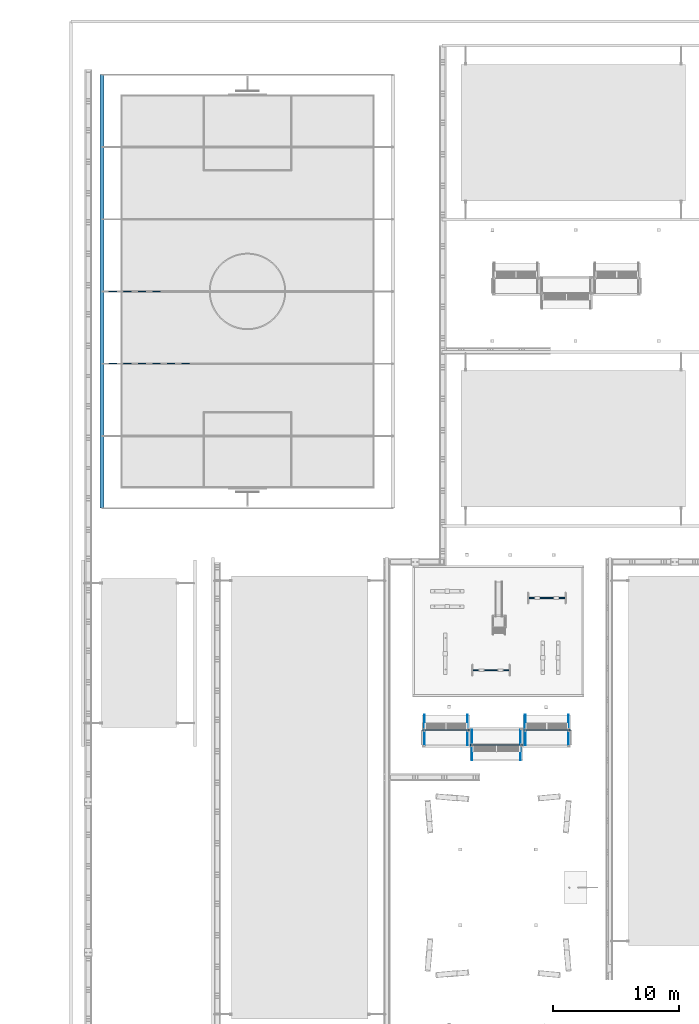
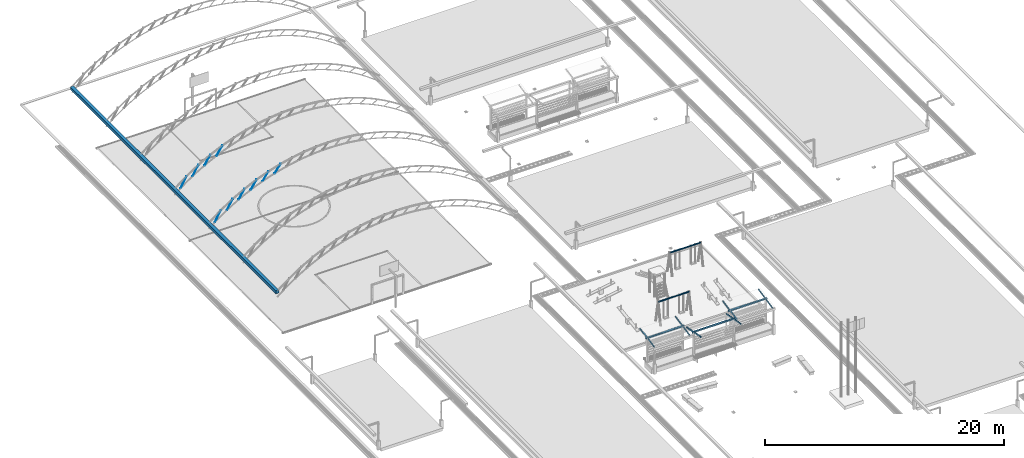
# One storey, part 12 of 90: 22 beams.
"""IFC2X3 building model written with IfcOpenShell, lengths in metres."""

from ifc_helpers import new_model, si_unit, origin, origin_with_axes, place, context, subcontext, project, spatial, faceted_brep, element, save


model = new_model("IFC2X3")

# Units and contexts
model_context = context("Model", 3, precision=1e-05, world=origin_with_axes())
body_context = subcontext(model_context, "Body", "Model", "MODEL_VIEW")
ifc_project = project(units=[si_unit("LENGTHUNIT", "METRE"), si_unit("AREAUNIT", "SQUARE_METRE"), si_unit("VOLUMEUNIT", "CUBIC_METRE"), si_unit("PLANEANGLEUNIT", "RADIAN")], contexts=[model_context])

# Site, building, storey
site_placement = place(None, origin_with_axes())
site = spatial("IfcSite", under=ifc_project, at=site_placement, Name="Predio Los Mangos - Morales, San Martín", CompositionType="ELEMENT")
building_placement = place(site_placement, origin())
building = spatial("IfcBuilding", under=site, at=building_placement, Name="Hogar de Refugio Temporal", CompositionType="ELEMENT")
storey_placement = place(building_placement, origin())
storey = spatial("IfcBuildingStorey", under=building, at=storey_placement, Name="NIVEL 1 (NPT +0.00)", CompositionType="ELEMENT", Elevation=0.0)

# Beams
beam_1_placement = place(storey_placement, origin())
element("IfcBeam", 1, at=beam_1_placement, inside=storey, Name="diag", ObjectType="Viga", context=body_context, shape_type="Brep", body=[
    faceted_brep([(4.0666, 104.0883, 5.8202), (4.6441, 104.0883, 6.8469), (4.655, 104.0917, 6.8408), (4.0775, 104.0917, 5.8141), (4.0586, 104.0792, 5.8247), (4.6361, 104.0792, 6.8514), (4.0557, 104.0667, 5.8263), (4.6332, 104.0667, 6.8531), (4.0586, 104.0542, 5.8247), (4.6361, 104.0542, 6.8514), (4.0666, 104.045, 5.8202), (4.6441, 104.045, 6.8469), (4.0775, 104.0417, 5.8141), (4.655, 104.0417, 6.8408), (4.0884, 104.045, 5.808), (4.6659, 104.045, 6.8347), (4.0964, 104.0542, 5.8035), (4.6739, 104.0542, 6.8302), (4.0993, 104.0667, 5.8018), (4.6768, 104.0667, 6.8286), (4.0964, 104.0792, 5.8035), (4.6739, 104.0792, 6.8302), (4.0884, 104.0883, 5.808), (4.6659, 104.0883, 6.8347), (4.0756, 104.0704, 5.8151), (4.0775, 104.071, 5.8141), (4.655, 104.071, 6.8408), (4.6531, 104.0704, 6.8419), (4.0743, 104.0688, 5.8159), (4.6518, 104.0688, 6.8426), (4.0738, 104.0667, 5.8162), (4.6513, 104.0667, 6.8429), (4.0743, 104.0645, 5.8159), (4.6518, 104.0645, 6.8426), (4.0756, 104.0629, 5.8151), (4.6531, 104.0629, 6.8419), (4.0775, 104.0624, 5.8141), (4.655, 104.0624, 6.8408), (4.0794, 104.0629, 5.813), (4.6569, 104.0629, 6.8398), (4.0807, 104.0645, 5.8123), (4.6582, 104.0645, 6.839), (4.0812, 104.0667, 5.812), (4.6587, 104.0667, 6.8387), (4.0807, 104.0688, 5.8123), (4.6582, 104.0688, 6.839), (4.0794, 104.0704, 5.813), (4.6569, 104.0704, 6.8398)], [[[0, 1, 2, 3]], [[4, 5, 1, 0]], [[6, 7, 5, 4]], [[8, 9, 7, 6]], [[10, 11, 9, 8]], [[12, 13, 11, 10]], [[14, 15, 13, 12]], [[16, 17, 15, 14]], [[18, 19, 17, 16]], [[20, 21, 19, 18]], [[22, 23, 21, 20]], [[3, 2, 23, 22]], [[24, 25, 26, 27]], [[28, 24, 27, 29]], [[30, 28, 29, 31]], [[32, 30, 31, 33]], [[34, 32, 33, 35]], [[36, 34, 35, 37]], [[38, 36, 37, 39]], [[40, 38, 39, 41]], [[42, 40, 41, 43]], [[44, 42, 43, 45]], [[46, 44, 45, 47]], [[25, 46, 47, 26]], [[9, 11, 35, 33]], [[19, 21, 45, 43]], [[12, 10, 34, 36]], [[22, 20, 44, 46]], [[5, 7, 31, 29]], [[15, 17, 41, 39]], [[2, 1, 27, 26]], [[8, 6, 30, 32]], [[18, 16, 40, 42]], [[11, 13, 37, 35]], [[21, 23, 47, 45]], [[4, 0, 24, 28]], [[14, 12, 36, 38]], [[3, 22, 46, 25]], [[7, 9, 33, 31]], [[17, 19, 43, 41]], [[23, 2, 26, 47]], [[10, 8, 32, 34]], [[20, 18, 42, 44]], [[1, 5, 29, 27]], [[13, 15, 39, 37]], [[6, 4, 28, 30]], [[16, 14, 38, 40]], [[0, 3, 25, 24]]]),
])
beam_2_placement = place(storey_placement, origin())
element("IfcBeam", 2, at=beam_2_placement, inside=storey, Name="diag", ObjectType="Viga", context=body_context, shape_type="Brep", body=[
    faceted_brep([(5.2218, 104.0883, 6.6398), (5.7993, 104.0883, 7.6007), (5.81, 104.0917, 7.5943), (5.2325, 104.0917, 6.6333), (5.2139, 104.0792, 6.6445), (5.7914, 104.0792, 7.6055), (5.2111, 104.0667, 6.6462), (5.7886, 104.0667, 7.6072), (5.2139, 104.0542, 6.6445), (5.7914, 104.0542, 7.6055), (5.2218, 104.045, 6.6398), (5.7993, 104.045, 7.6007), (5.2325, 104.0417, 6.6333), (5.81, 104.0417, 7.5943), (5.2432, 104.045, 6.6269), (5.8207, 104.045, 7.5879), (5.2511, 104.0542, 6.6222), (5.8286, 104.0542, 7.5832), (5.2539, 104.0667, 6.6205), (5.8314, 104.0667, 7.5814), (5.2511, 104.0792, 6.6222), (5.8286, 104.0792, 7.5832), (5.2432, 104.0883, 6.6269), (5.8207, 104.0883, 7.5879), (5.2307, 104.0704, 6.6345), (5.2325, 104.071, 6.6333), (5.81, 104.071, 7.5943), (5.8082, 104.0704, 7.5954), (5.2293, 104.0688, 6.6353), (5.8068, 104.0688, 7.5962), (5.2288, 104.0667, 6.6356), (5.8063, 104.0667, 7.5965), (5.2293, 104.0645, 6.6353), (5.8068, 104.0645, 7.5962), (5.2307, 104.0629, 6.6345), (5.8082, 104.0629, 7.5954), (5.2325, 104.0624, 6.6333), (5.81, 104.0624, 7.5943), (5.2343, 104.0629, 6.6322), (5.8118, 104.0629, 7.5932), (5.2357, 104.0645, 6.6314), (5.8132, 104.0645, 7.5924), (5.2362, 104.0667, 6.6311), (5.8137, 104.0667, 7.5921), (5.2357, 104.0688, 6.6314), (5.8132, 104.0688, 7.5924), (5.2343, 104.0704, 6.6322), (5.8118, 104.0704, 7.5932)], [[[0, 1, 2, 3]], [[4, 5, 1, 0]], [[6, 7, 5, 4]], [[8, 9, 7, 6]], [[10, 11, 9, 8]], [[12, 13, 11, 10]], [[14, 15, 13, 12]], [[16, 17, 15, 14]], [[18, 19, 17, 16]], [[20, 21, 19, 18]], [[22, 23, 21, 20]], [[3, 2, 23, 22]], [[24, 25, 26, 27]], [[28, 24, 27, 29]], [[30, 28, 29, 31]], [[32, 30, 31, 33]], [[34, 32, 33, 35]], [[36, 34, 35, 37]], [[38, 36, 37, 39]], [[40, 38, 39, 41]], [[42, 40, 41, 43]], [[44, 42, 43, 45]], [[46, 44, 45, 47]], [[25, 46, 47, 26]], [[9, 11, 35, 33]], [[19, 21, 45, 43]], [[12, 10, 34, 36]], [[22, 20, 44, 46]], [[5, 7, 31, 29]], [[15, 17, 41, 39]], [[2, 1, 27, 26]], [[8, 6, 30, 32]], [[18, 16, 40, 42]], [[11, 13, 37, 35]], [[21, 23, 47, 45]], [[4, 0, 24, 28]], [[14, 12, 36, 38]], [[3, 22, 46, 25]], [[7, 9, 33, 31]], [[17, 19, 43, 41]], [[23, 2, 26, 47]], [[10, 8, 32, 34]], [[20, 18, 42, 44]], [[1, 5, 29, 27]], [[13, 15, 39, 37]], [[6, 4, 28, 30]], [[16, 14, 38, 40]], [[0, 3, 25, 24]]]),
])
beam_3_placement = place(storey_placement, origin())
element("IfcBeam", 3, at=beam_3_placement, inside=storey, Name="diag", ObjectType="Viga", context=body_context, shape_type="Brep", body=[
    faceted_brep([(6.377, 104.0883, 7.3326), (6.9545, 104.0883, 8.2366), (6.965, 104.0917, 8.2298), (6.3875, 104.0917, 7.3259), (6.3693, 104.0792, 7.3375), (6.9468, 104.0792, 8.2415), (6.3664, 104.0667, 7.3393), (6.9439, 104.0667, 8.2433), (6.3693, 104.0542, 7.3375), (6.9468, 104.0542, 8.2415), (6.377, 104.045, 7.3326), (6.9545, 104.045, 8.2366), (6.3875, 104.0417, 7.3259), (6.965, 104.0417, 8.2298), (6.398, 104.045, 7.3191), (6.9755, 104.045, 8.2231), (6.4057, 104.0542, 7.3142), (6.9832, 104.0542, 8.2182), (6.4086, 104.0667, 7.3124), (6.9861, 104.0667, 8.2164), (6.4057, 104.0792, 7.3142), (6.9832, 104.0792, 8.2182), (6.398, 104.0883, 7.3191), (6.9755, 104.0883, 8.2231), (6.3857, 104.0704, 7.327), (6.3875, 104.071, 7.3259), (6.965, 104.071, 8.2298), (6.9632, 104.0704, 8.231), (6.3844, 104.0688, 7.3279), (6.9619, 104.0688, 8.2318), (6.3839, 104.0667, 7.3282), (6.9614, 104.0667, 8.2321), (6.3844, 104.0645, 7.3279), (6.9619, 104.0645, 8.2318), (6.3857, 104.0629, 7.327), (6.9632, 104.0629, 8.231), (6.3875, 104.0624, 7.3259), (6.965, 104.0624, 8.2298), (6.3893, 104.0629, 7.3247), (6.9668, 104.0629, 8.2287), (6.3906, 104.0645, 7.3239), (6.9681, 104.0645, 8.2278), (6.3911, 104.0667, 7.3235), (6.9686, 104.0667, 8.2275), (6.3906, 104.0688, 7.3239), (6.9681, 104.0688, 8.2278), (6.3893, 104.0704, 7.3247), (6.9668, 104.0704, 8.2287)], [[[0, 1, 2, 3]], [[4, 5, 1, 0]], [[6, 7, 5, 4]], [[8, 9, 7, 6]], [[10, 11, 9, 8]], [[12, 13, 11, 10]], [[14, 15, 13, 12]], [[16, 17, 15, 14]], [[18, 19, 17, 16]], [[20, 21, 19, 18]], [[22, 23, 21, 20]], [[3, 2, 23, 22]], [[24, 25, 26, 27]], [[28, 24, 27, 29]], [[30, 28, 29, 31]], [[32, 30, 31, 33]], [[34, 32, 33, 35]], [[36, 34, 35, 37]], [[38, 36, 37, 39]], [[40, 38, 39, 41]], [[42, 40, 41, 43]], [[44, 42, 43, 45]], [[46, 44, 45, 47]], [[25, 46, 47, 26]], [[9, 11, 35, 33]], [[19, 21, 45, 43]], [[12, 10, 34, 36]], [[22, 20, 44, 46]], [[5, 7, 31, 29]], [[15, 17, 41, 39]], [[2, 1, 27, 26]], [[8, 6, 30, 32]], [[18, 16, 40, 42]], [[11, 13, 37, 35]], [[21, 23, 47, 45]], [[4, 0, 24, 28]], [[14, 12, 36, 38]], [[3, 22, 46, 25]], [[7, 9, 33, 31]], [[17, 19, 43, 41]], [[23, 2, 26, 47]], [[10, 8, 32, 34]], [[20, 18, 42, 44]], [[1, 5, 29, 27]], [[13, 15, 39, 37]], [[6, 4, 28, 30]], [[16, 14, 38, 40]], [[0, 3, 25, 24]]]),
])
beam_4_placement = place(storey_placement, origin())
element("IfcBeam", 4, at=beam_4_placement, inside=storey, Name="diag", ObjectType="Viga", context=body_context, shape_type="Brep", body=[
    faceted_brep([(7.5321, 104.0883, 7.9148), (8.1096, 104.0883, 8.7679), (8.12, 104.0917, 8.7609), (7.5425, 104.0917, 7.9077), (7.5246, 104.0792, 7.9199), (8.1021, 104.0792, 8.7731), (7.5218, 104.0667, 7.9218), (8.0993, 104.0667, 8.7749), (7.5246, 104.0542, 7.9199), (8.1021, 104.0542, 8.7731), (7.5321, 104.045, 7.9148), (8.1096, 104.045, 8.7679), (7.5425, 104.0417, 7.9077), (8.12, 104.0417, 8.7609), (7.5529, 104.045, 7.9007), (8.1304, 104.045, 8.7539), (7.5604, 104.0542, 7.8956), (8.1379, 104.0542, 8.7488), (7.5632, 104.0667, 7.8937), (8.1407, 104.0667, 8.7469), (7.5604, 104.0792, 7.8956), (8.1379, 104.0792, 8.7488), (7.5529, 104.0883, 7.9007), (8.1304, 104.0883, 8.7539), (7.5407, 104.0704, 7.9089), (7.5425, 104.071, 7.9077), (8.12, 104.071, 8.7609), (8.1182, 104.0704, 8.7621), (7.5394, 104.0688, 7.9098), (8.1169, 104.0688, 8.763), (7.5389, 104.0667, 7.9102), (8.1164, 104.0667, 8.7633), (7.5394, 104.0645, 7.9098), (8.1169, 104.0645, 8.763), (7.5407, 104.0629, 7.9089), (8.1182, 104.0629, 8.7621), (7.5425, 104.0624, 7.9077), (8.12, 104.0624, 8.7609), (7.5443, 104.0629, 7.9065), (8.1218, 104.0629, 8.7597), (7.5456, 104.0645, 7.9057), (8.1231, 104.0645, 8.7588), (7.5461, 104.0667, 7.9053), (8.1236, 104.0667, 8.7585), (7.5456, 104.0688, 7.9057), (8.1231, 104.0688, 8.7588), (7.5443, 104.0704, 7.9065), (8.1218, 104.0704, 8.7597)], [[[0, 1, 2, 3]], [[4, 5, 1, 0]], [[6, 7, 5, 4]], [[8, 9, 7, 6]], [[10, 11, 9, 8]], [[12, 13, 11, 10]], [[14, 15, 13, 12]], [[16, 17, 15, 14]], [[18, 19, 17, 16]], [[20, 21, 19, 18]], [[22, 23, 21, 20]], [[3, 2, 23, 22]], [[24, 25, 26, 27]], [[28, 24, 27, 29]], [[30, 28, 29, 31]], [[32, 30, 31, 33]], [[34, 32, 33, 35]], [[36, 34, 35, 37]], [[38, 36, 37, 39]], [[40, 38, 39, 41]], [[42, 40, 41, 43]], [[44, 42, 43, 45]], [[46, 44, 45, 47]], [[25, 46, 47, 26]], [[9, 11, 35, 33]], [[19, 21, 45, 43]], [[12, 10, 34, 36]], [[22, 20, 44, 46]], [[5, 7, 31, 29]], [[15, 17, 41, 39]], [[2, 1, 27, 26]], [[8, 6, 30, 32]], [[18, 16, 40, 42]], [[11, 13, 37, 35]], [[21, 23, 47, 45]], [[4, 0, 24, 28]], [[14, 12, 36, 38]], [[3, 22, 46, 25]], [[7, 9, 33, 31]], [[17, 19, 43, 41]], [[23, 2, 26, 47]], [[10, 8, 32, 34]], [[20, 18, 42, 44]], [[1, 5, 29, 27]], [[13, 15, 39, 37]], [[6, 4, 28, 30]], [[16, 14, 38, 40]], [[0, 3, 25, 24]]]),
])
beam_5_placement = place(storey_placement, origin())
element("IfcBeam", 5, at=beam_5_placement, inside=storey, Name="diag", ObjectType="Viga", context=body_context, shape_type="Brep", body=[
    faceted_brep([(8.6873, 104.0883, 8.3978), (9.2648, 104.0883, 9.2047), (9.275, 104.0917, 9.1974), (8.6975, 104.0917, 8.3905), (8.6799, 104.0792, 8.4031), (9.2574, 104.0792, 9.21), (8.6772, 104.0667, 8.405), (9.2547, 104.0667, 9.2119), (8.6799, 104.0542, 8.4031), (9.2574, 104.0542, 9.21), (8.6873, 104.045, 8.3978), (9.2648, 104.045, 9.2047), (8.6975, 104.0417, 8.3905), (9.275, 104.0417, 9.1974), (8.7077, 104.045, 8.3832), (9.2852, 104.045, 9.1901), (8.7151, 104.0542, 8.3779), (9.2926, 104.0542, 9.1848), (8.7178, 104.0667, 8.3759), (9.2953, 104.0667, 9.1828), (8.7151, 104.0792, 8.3779), (9.2926, 104.0792, 9.1848), (8.7077, 104.0883, 8.3832), (9.2852, 104.0883, 9.1901), (8.6958, 104.0704, 8.3917), (8.6975, 104.071, 8.3905), (9.275, 104.071, 9.1974), (9.2733, 104.0704, 9.1986), (8.6945, 104.0688, 8.3927), (9.272, 104.0688, 9.1996), (8.694, 104.0667, 8.393), (9.2715, 104.0667, 9.1999), (8.6945, 104.0645, 8.3927), (9.272, 104.0645, 9.1996), (8.6958, 104.0629, 8.3917), (9.2733, 104.0629, 9.1986), (8.6975, 104.0624, 8.3905), (9.275, 104.0624, 9.1974), (8.6992, 104.0629, 8.3892), (9.2767, 104.0629, 9.1961), (8.7005, 104.0645, 8.3883), (9.278, 104.0645, 9.1952), (8.701, 104.0667, 8.388), (9.2785, 104.0667, 9.1949), (8.7005, 104.0688, 8.3883), (9.278, 104.0688, 9.1952), (8.6992, 104.0704, 8.3892), (9.2767, 104.0704, 9.1961)], [[[0, 1, 2, 3]], [[4, 5, 1, 0]], [[6, 7, 5, 4]], [[8, 9, 7, 6]], [[10, 11, 9, 8]], [[12, 13, 11, 10]], [[14, 15, 13, 12]], [[16, 17, 15, 14]], [[18, 19, 17, 16]], [[20, 21, 19, 18]], [[22, 23, 21, 20]], [[3, 2, 23, 22]], [[24, 25, 26, 27]], [[28, 24, 27, 29]], [[30, 28, 29, 31]], [[32, 30, 31, 33]], [[34, 32, 33, 35]], [[36, 34, 35, 37]], [[38, 36, 37, 39]], [[40, 38, 39, 41]], [[42, 40, 41, 43]], [[44, 42, 43, 45]], [[46, 44, 45, 47]], [[25, 46, 47, 26]], [[9, 11, 35, 33]], [[19, 21, 45, 43]], [[12, 10, 34, 36]], [[22, 20, 44, 46]], [[5, 7, 31, 29]], [[15, 17, 41, 39]], [[2, 1, 27, 26]], [[8, 6, 30, 32]], [[18, 16, 40, 42]], [[11, 13, 37, 35]], [[21, 23, 47, 45]], [[4, 0, 24, 28]], [[14, 12, 36, 38]], [[3, 22, 46, 25]], [[7, 9, 33, 31]], [[17, 19, 43, 41]], [[23, 2, 26, 47]], [[10, 8, 32, 34]], [[20, 18, 42, 44]], [[1, 5, 29, 27]], [[13, 15, 39, 37]], [[6, 4, 28, 30]], [[16, 14, 38, 40]], [[0, 3, 25, 24]]]),
])
beam_6_placement = place(storey_placement, origin())
element("IfcBeam", 6, at=beam_6_placement, inside=storey, Name="diag", ObjectType="Viga", context=body_context, shape_type="Brep", body=[
    faceted_brep([(9.8425, 104.0883, 8.79), (10.42, 104.0883, 9.5539), (10.43, 104.0917, 9.5463), (9.8525, 104.0917, 8.7824), (9.8352, 104.0792, 8.7955), (10.4127, 104.0792, 9.5594), (9.8326, 104.0667, 8.7975), (10.4101, 104.0667, 9.5614), (9.8352, 104.0542, 8.7955), (10.4127, 104.0542, 9.5594), (9.8425, 104.045, 8.79), (10.42, 104.045, 9.5539), (9.8525, 104.0417, 8.7824), (10.43, 104.0417, 9.5463), (9.8625, 104.045, 8.7749), (10.44, 104.045, 9.5388), (9.8698, 104.0542, 8.7694), (10.4473, 104.0542, 9.5333), (9.8724, 104.0667, 8.7674), (10.4499, 104.0667, 9.5313), (9.8698, 104.0792, 8.7694), (10.4473, 104.0792, 9.5333), (9.8625, 104.0883, 8.7749), (10.44, 104.0883, 9.5388), (9.8508, 104.0704, 8.7837), (9.8525, 104.071, 8.7824), (10.43, 104.071, 9.5463), (10.4283, 104.0704, 9.5476), (9.8495, 104.0688, 8.7847), (10.427, 104.0688, 9.5486), (9.8491, 104.0667, 8.785), (10.4266, 104.0667, 9.5489), (9.8495, 104.0645, 8.7847), (10.427, 104.0645, 9.5486), (9.8508, 104.0629, 8.7837), (10.4283, 104.0629, 9.5476), (9.8525, 104.0624, 8.7824), (10.43, 104.0624, 9.5463), (9.8542, 104.0629, 8.7812), (10.4317, 104.0629, 9.5451), (9.8555, 104.0645, 8.7802), (10.433, 104.0645, 9.5441), (9.8559, 104.0667, 8.7799), (10.4334, 104.0667, 9.5438), (9.8555, 104.0688, 8.7802), (10.433, 104.0688, 9.5441), (9.8542, 104.0704, 8.7812), (10.4317, 104.0704, 9.5451)], [[[0, 1, 2, 3]], [[4, 5, 1, 0]], [[6, 7, 5, 4]], [[8, 9, 7, 6]], [[10, 11, 9, 8]], [[12, 13, 11, 10]], [[14, 15, 13, 12]], [[16, 17, 15, 14]], [[18, 19, 17, 16]], [[20, 21, 19, 18]], [[22, 23, 21, 20]], [[3, 2, 23, 22]], [[24, 25, 26, 27]], [[28, 24, 27, 29]], [[30, 28, 29, 31]], [[32, 30, 31, 33]], [[34, 32, 33, 35]], [[36, 34, 35, 37]], [[38, 36, 37, 39]], [[40, 38, 39, 41]], [[42, 40, 41, 43]], [[44, 42, 43, 45]], [[46, 44, 45, 47]], [[25, 46, 47, 26]], [[9, 11, 35, 33]], [[19, 21, 45, 43]], [[12, 10, 34, 36]], [[22, 20, 44, 46]], [[5, 7, 31, 29]], [[15, 17, 41, 39]], [[2, 1, 27, 26]], [[8, 6, 30, 32]], [[18, 16, 40, 42]], [[11, 13, 37, 35]], [[21, 23, 47, 45]], [[4, 0, 24, 28]], [[14, 12, 36, 38]], [[3, 22, 46, 25]], [[7, 9, 33, 31]], [[17, 19, 43, 41]], [[23, 2, 26, 47]], [[10, 8, 32, 34]], [[20, 18, 42, 44]], [[1, 5, 29, 27]], [[13, 15, 39, 37]], [[6, 4, 28, 30]], [[16, 14, 38, 40]], [[0, 3, 25, 24]]]),
])
beam_7_placement = place(storey_placement, origin())
element("IfcBeam", 7, at=beam_7_placement, inside=storey, Name="diag", ObjectType="Viga", context=body_context, shape_type="Brep", body=[
    faceted_brep([(4.0666, 109.8217, 5.8202), (4.6441, 109.8217, 6.8469), (4.655, 109.825, 6.8408), (4.0775, 109.825, 5.8141), (4.0586, 109.8125, 5.8247), (4.6361, 109.8125, 6.8514), (4.0557, 109.8, 5.8263), (4.6332, 109.8, 6.8531), (4.0586, 109.7875, 5.8247), (4.6361, 109.7875, 6.8514), (4.0666, 109.7784, 5.8202), (4.6441, 109.7784, 6.8469), (4.0775, 109.775, 5.8141), (4.655, 109.775, 6.8408), (4.0884, 109.7784, 5.808), (4.6659, 109.7784, 6.8347), (4.0964, 109.7875, 5.8035), (4.6739, 109.7875, 6.8302), (4.0993, 109.8, 5.8018), (4.6768, 109.8, 6.8286), (4.0964, 109.8125, 5.8035), (4.6739, 109.8125, 6.8302), (4.0884, 109.8217, 5.808), (4.6659, 109.8217, 6.8347), (4.0756, 109.8037, 5.8151), (4.0775, 109.8043, 5.8141), (4.655, 109.8043, 6.8408), (4.6531, 109.8037, 6.8419), (4.0743, 109.8021, 5.8159), (4.6518, 109.8021, 6.8426), (4.0738, 109.8, 5.8162), (4.6513, 109.8, 6.8429), (4.0743, 109.7979, 5.8159), (4.6518, 109.7979, 6.8426), (4.0756, 109.7963, 5.8151), (4.6531, 109.7963, 6.8419), (4.0775, 109.7957, 5.8141), (4.655, 109.7957, 6.8408), (4.0794, 109.7963, 5.813), (4.6569, 109.7963, 6.8398), (4.0807, 109.7979, 5.8123), (4.6582, 109.7979, 6.839), (4.0812, 109.8, 5.812), (4.6587, 109.8, 6.8387), (4.0807, 109.8021, 5.8123), (4.6582, 109.8021, 6.839), (4.0794, 109.8037, 5.813), (4.6569, 109.8037, 6.8398)], [[[0, 1, 2, 3]], [[4, 5, 1, 0]], [[6, 7, 5, 4]], [[8, 9, 7, 6]], [[10, 11, 9, 8]], [[12, 13, 11, 10]], [[14, 15, 13, 12]], [[16, 17, 15, 14]], [[18, 19, 17, 16]], [[20, 21, 19, 18]], [[22, 23, 21, 20]], [[3, 2, 23, 22]], [[24, 25, 26, 27]], [[28, 24, 27, 29]], [[30, 28, 29, 31]], [[32, 30, 31, 33]], [[34, 32, 33, 35]], [[36, 34, 35, 37]], [[38, 36, 37, 39]], [[40, 38, 39, 41]], [[42, 40, 41, 43]], [[44, 42, 43, 45]], [[46, 44, 45, 47]], [[25, 46, 47, 26]], [[17, 19, 43, 41]], [[23, 2, 26, 47]], [[10, 8, 32, 34]], [[20, 18, 42, 44]], [[1, 5, 29, 27]], [[13, 15, 39, 37]], [[6, 4, 28, 30]], [[16, 14, 38, 40]], [[0, 3, 25, 24]], [[9, 11, 35, 33]], [[19, 21, 45, 43]], [[12, 10, 34, 36]], [[22, 20, 44, 46]], [[5, 7, 31, 29]], [[15, 17, 41, 39]], [[2, 1, 27, 26]], [[8, 6, 30, 32]], [[18, 16, 40, 42]], [[11, 13, 37, 35]], [[21, 23, 47, 45]], [[4, 0, 24, 28]], [[14, 12, 36, 38]], [[3, 22, 46, 25]], [[7, 9, 33, 31]]]),
])
beam_8_placement = place(storey_placement, origin())
element("IfcBeam", 8, at=beam_8_placement, inside=storey, Name="diag", ObjectType="Viga", context=body_context, shape_type="Brep", body=[
    faceted_brep([(5.2218, 109.8217, 6.6398), (5.7993, 109.8217, 7.6007), (5.81, 109.825, 7.5943), (5.2325, 109.825, 6.6333), (5.2139, 109.8125, 6.6445), (5.7914, 109.8125, 7.6055), (5.2111, 109.8, 6.6462), (5.7886, 109.8, 7.6072), (5.2139, 109.7875, 6.6445), (5.7914, 109.7875, 7.6055), (5.2218, 109.7784, 6.6398), (5.7993, 109.7784, 7.6007), (5.2325, 109.775, 6.6333), (5.81, 109.775, 7.5943), (5.2432, 109.7784, 6.6269), (5.8207, 109.7784, 7.5879), (5.2511, 109.7875, 6.6222), (5.8286, 109.7875, 7.5832), (5.2539, 109.8, 6.6205), (5.8314, 109.8, 7.5814), (5.2511, 109.8125, 6.6222), (5.8286, 109.8125, 7.5832), (5.2432, 109.8217, 6.6269), (5.8207, 109.8217, 7.5879), (5.2307, 109.8037, 6.6345), (5.2325, 109.8043, 6.6333), (5.81, 109.8043, 7.5943), (5.8082, 109.8037, 7.5954), (5.2293, 109.8021, 6.6353), (5.8068, 109.8021, 7.5962), (5.2288, 109.8, 6.6356), (5.8063, 109.8, 7.5965), (5.2293, 109.7979, 6.6353), (5.8068, 109.7979, 7.5962), (5.2307, 109.7963, 6.6345), (5.8082, 109.7963, 7.5954), (5.2325, 109.7957, 6.6333), (5.81, 109.7957, 7.5943), (5.2343, 109.7963, 6.6322), (5.8118, 109.7963, 7.5932), (5.2357, 109.7979, 6.6314), (5.8132, 109.7979, 7.5924), (5.2362, 109.8, 6.6311), (5.8137, 109.8, 7.5921), (5.2357, 109.8021, 6.6314), (5.8132, 109.8021, 7.5924), (5.2343, 109.8037, 6.6322), (5.8118, 109.8037, 7.5932)], [[[0, 1, 2, 3]], [[4, 5, 1, 0]], [[6, 7, 5, 4]], [[8, 9, 7, 6]], [[10, 11, 9, 8]], [[12, 13, 11, 10]], [[14, 15, 13, 12]], [[16, 17, 15, 14]], [[18, 19, 17, 16]], [[20, 21, 19, 18]], [[22, 23, 21, 20]], [[3, 2, 23, 22]], [[24, 25, 26, 27]], [[28, 24, 27, 29]], [[30, 28, 29, 31]], [[32, 30, 31, 33]], [[34, 32, 33, 35]], [[36, 34, 35, 37]], [[38, 36, 37, 39]], [[40, 38, 39, 41]], [[42, 40, 41, 43]], [[44, 42, 43, 45]], [[46, 44, 45, 47]], [[25, 46, 47, 26]], [[17, 19, 43, 41]], [[23, 2, 26, 47]], [[10, 8, 32, 34]], [[20, 18, 42, 44]], [[1, 5, 29, 27]], [[13, 15, 39, 37]], [[6, 4, 28, 30]], [[16, 14, 38, 40]], [[0, 3, 25, 24]], [[9, 11, 35, 33]], [[19, 21, 45, 43]], [[12, 10, 34, 36]], [[22, 20, 44, 46]], [[5, 7, 31, 29]], [[15, 17, 41, 39]], [[2, 1, 27, 26]], [[8, 6, 30, 32]], [[18, 16, 40, 42]], [[11, 13, 37, 35]], [[21, 23, 47, 45]], [[4, 0, 24, 28]], [[14, 12, 36, 38]], [[3, 22, 46, 25]], [[7, 9, 33, 31]]]),
])
beam_9_placement = place(storey_placement, origin())
element("IfcBeam", 9, at=beam_9_placement, inside=storey, Name="diag", ObjectType="Viga", context=body_context, shape_type="Brep", body=[
    faceted_brep([(6.377, 109.8217, 7.3326), (6.9545, 109.8217, 8.2366), (6.965, 109.825, 8.2298), (6.3875, 109.825, 7.3259), (6.3693, 109.8125, 7.3375), (6.9468, 109.8125, 8.2415), (6.3664, 109.8, 7.3393), (6.9439, 109.8, 8.2433), (6.3693, 109.7875, 7.3375), (6.9468, 109.7875, 8.2415), (6.377, 109.7784, 7.3326), (6.9545, 109.7784, 8.2366), (6.3875, 109.775, 7.3259), (6.965, 109.775, 8.2298), (6.398, 109.7784, 7.3191), (6.9755, 109.7784, 8.2231), (6.4057, 109.7875, 7.3142), (6.9832, 109.7875, 8.2182), (6.4086, 109.8, 7.3124), (6.9861, 109.8, 8.2164), (6.4057, 109.8125, 7.3142), (6.9832, 109.8125, 8.2182), (6.398, 109.8217, 7.3191), (6.9755, 109.8217, 8.2231), (6.3857, 109.8037, 7.327), (6.3875, 109.8043, 7.3259), (6.965, 109.8043, 8.2298), (6.9632, 109.8037, 8.231), (6.3844, 109.8021, 7.3279), (6.9619, 109.8021, 8.2318), (6.3839, 109.8, 7.3282), (6.9614, 109.8, 8.2321), (6.3844, 109.7979, 7.3279), (6.9619, 109.7979, 8.2318), (6.3857, 109.7963, 7.327), (6.9632, 109.7963, 8.231), (6.3875, 109.7957, 7.3259), (6.965, 109.7957, 8.2298), (6.3893, 109.7963, 7.3247), (6.9668, 109.7963, 8.2287), (6.3906, 109.7979, 7.3239), (6.9681, 109.7979, 8.2278), (6.3911, 109.8, 7.3235), (6.9686, 109.8, 8.2275), (6.3906, 109.8021, 7.3239), (6.9681, 109.8021, 8.2278), (6.3893, 109.8037, 7.3247), (6.9668, 109.8037, 8.2287)], [[[0, 1, 2, 3]], [[4, 5, 1, 0]], [[6, 7, 5, 4]], [[8, 9, 7, 6]], [[10, 11, 9, 8]], [[12, 13, 11, 10]], [[14, 15, 13, 12]], [[16, 17, 15, 14]], [[18, 19, 17, 16]], [[20, 21, 19, 18]], [[22, 23, 21, 20]], [[3, 2, 23, 22]], [[24, 25, 26, 27]], [[28, 24, 27, 29]], [[30, 28, 29, 31]], [[32, 30, 31, 33]], [[34, 32, 33, 35]], [[36, 34, 35, 37]], [[38, 36, 37, 39]], [[40, 38, 39, 41]], [[42, 40, 41, 43]], [[44, 42, 43, 45]], [[46, 44, 45, 47]], [[25, 46, 47, 26]], [[17, 19, 43, 41]], [[23, 2, 26, 47]], [[10, 8, 32, 34]], [[20, 18, 42, 44]], [[1, 5, 29, 27]], [[13, 15, 39, 37]], [[6, 4, 28, 30]], [[16, 14, 38, 40]], [[0, 3, 25, 24]], [[9, 11, 35, 33]], [[19, 21, 45, 43]], [[12, 10, 34, 36]], [[22, 20, 44, 46]], [[5, 7, 31, 29]], [[15, 17, 41, 39]], [[2, 1, 27, 26]], [[8, 6, 30, 32]], [[18, 16, 40, 42]], [[11, 13, 37, 35]], [[21, 23, 47, 45]], [[4, 0, 24, 28]], [[14, 12, 36, 38]], [[3, 22, 46, 25]], [[7, 9, 33, 31]]]),
])
beam_10_placement = place(storey_placement, origin())
element("IfcBeam", 10, at=beam_10_placement, inside=storey, Name="diag", ObjectType="Viga", context=body_context, shape_type="Brep", body=[
    faceted_brep([(7.5321, 109.8217, 7.9148), (8.1096, 109.8217, 8.7679), (8.12, 109.825, 8.7609), (7.5425, 109.825, 7.9077), (7.5246, 109.8125, 7.9199), (8.1021, 109.8125, 8.7731), (7.5218, 109.8, 7.9218), (8.0993, 109.8, 8.7749), (7.5246, 109.7875, 7.9199), (8.1021, 109.7875, 8.7731), (7.5321, 109.7784, 7.9148), (8.1096, 109.7784, 8.7679), (7.5425, 109.775, 7.9077), (8.12, 109.775, 8.7609), (7.5529, 109.7784, 7.9007), (8.1304, 109.7784, 8.7539), (7.5604, 109.7875, 7.8956), (8.1379, 109.7875, 8.7488), (7.5632, 109.8, 7.8937), (8.1407, 109.8, 8.7469), (7.5604, 109.8125, 7.8956), (8.1379, 109.8125, 8.7488), (7.5529, 109.8217, 7.9007), (8.1304, 109.8217, 8.7539), (7.5407, 109.8037, 7.9089), (7.5425, 109.8043, 7.9077), (8.12, 109.8043, 8.7609), (8.1182, 109.8037, 8.7621), (7.5394, 109.8021, 7.9098), (8.1169, 109.8021, 8.763), (7.5389, 109.8, 7.9102), (8.1164, 109.8, 8.7633), (7.5394, 109.7979, 7.9098), (8.1169, 109.7979, 8.763), (7.5407, 109.7963, 7.9089), (8.1182, 109.7963, 8.7621), (7.5425, 109.7957, 7.9077), (8.12, 109.7957, 8.7609), (7.5443, 109.7963, 7.9065), (8.1218, 109.7963, 8.7597), (7.5456, 109.7979, 7.9057), (8.1231, 109.7979, 8.7588), (7.5461, 109.8, 7.9053), (8.1236, 109.8, 8.7585), (7.5456, 109.8021, 7.9057), (8.1231, 109.8021, 8.7588), (7.5443, 109.8037, 7.9065), (8.1218, 109.8037, 8.7597)], [[[0, 1, 2, 3]], [[4, 5, 1, 0]], [[6, 7, 5, 4]], [[8, 9, 7, 6]], [[10, 11, 9, 8]], [[12, 13, 11, 10]], [[14, 15, 13, 12]], [[16, 17, 15, 14]], [[18, 19, 17, 16]], [[20, 21, 19, 18]], [[22, 23, 21, 20]], [[3, 2, 23, 22]], [[24, 25, 26, 27]], [[28, 24, 27, 29]], [[30, 28, 29, 31]], [[32, 30, 31, 33]], [[34, 32, 33, 35]], [[36, 34, 35, 37]], [[38, 36, 37, 39]], [[40, 38, 39, 41]], [[42, 40, 41, 43]], [[44, 42, 43, 45]], [[46, 44, 45, 47]], [[25, 46, 47, 26]], [[17, 19, 43, 41]], [[23, 2, 26, 47]], [[10, 8, 32, 34]], [[20, 18, 42, 44]], [[1, 5, 29, 27]], [[13, 15, 39, 37]], [[6, 4, 28, 30]], [[16, 14, 38, 40]], [[0, 3, 25, 24]], [[9, 11, 35, 33]], [[19, 21, 45, 43]], [[12, 10, 34, 36]], [[22, 20, 44, 46]], [[5, 7, 31, 29]], [[15, 17, 41, 39]], [[2, 1, 27, 26]], [[8, 6, 30, 32]], [[18, 16, 40, 42]], [[11, 13, 37, 35]], [[21, 23, 47, 45]], [[4, 0, 24, 28]], [[14, 12, 36, 38]], [[3, 22, 46, 25]], [[7, 9, 33, 31]]]),
])
beam_11_placement = place(storey_placement, origin())
element("IfcBeam", 11, at=beam_11_placement, inside=storey, Name="viga_long", ObjectType="Viga", context=body_context, shape_type="Brep", body=[
    faceted_brep([(3.35, 92.6, 5.7), (3.35, 127.0, 5.7), (3.65, 127.0, 5.7), (3.65, 92.6, 5.7), (3.35, 92.6, 6.0), (3.65, 92.6, 6.0), (3.65, 127.0, 6.0), (3.35, 127.0, 6.0)], [[[0, 1, 2, 3]], [[4, 5, 6, 7]], [[0, 3, 5, 4]], [[3, 2, 6, 5]], [[2, 1, 7, 6]], [[1, 0, 4, 7]]]),
])
beam_12_placement = place(storey_placement, origin())
element("IfcBeam", 12, at=beam_12_placement, inside=storey, Name="columpio_viga", ObjectType="Viga", context=body_context, shape_type="Brep", body=[
    faceted_brep([(32.885, 79.744, 2.4), (35.86, 79.744, 2.4), (35.86, 79.769, 2.3933), (32.885, 79.769, 2.3933), (35.86, 79.7873, 2.375), (32.885, 79.7873, 2.375), (35.86, 79.794, 2.35), (32.885, 79.794, 2.35), (35.86, 79.7873, 2.325), (32.885, 79.7873, 2.325), (35.86, 79.769, 2.3067), (32.885, 79.769, 2.3067), (35.86, 79.744, 2.3), (32.885, 79.744, 2.3), (35.86, 79.719, 2.3067), (32.885, 79.719, 2.3067), (35.86, 79.7007, 2.325), (32.885, 79.7007, 2.325), (35.86, 79.694, 2.35), (32.885, 79.694, 2.35), (35.86, 79.7007, 2.375), (32.885, 79.7007, 2.375), (35.86, 79.719, 2.3933), (32.885, 79.719, 2.3933)], [[[0, 1, 2, 3]], [[3, 2, 4, 5]], [[5, 4, 6, 7]], [[7, 6, 8, 9]], [[9, 8, 10, 11]], [[11, 10, 12, 13]], [[13, 12, 14, 15]], [[15, 14, 16, 17]], [[17, 16, 18, 19]], [[19, 18, 20, 21]], [[2, 1, 22, 20, 18, 16, 14, 12, 10, 8, 6, 4]], [[21, 20, 22, 23]], [[23, 22, 1, 0]], [[0, 3, 5, 7, 9, 11, 13, 15, 17, 19, 21, 23]]]),
])
beam_13_placement = place(storey_placement, origin())
element("IfcBeam", 13, at=beam_13_placement, inside=storey, Name="columpio_viga", ObjectType="Viga", context=body_context, shape_type="Brep", body=[
    faceted_brep([(37.31, 85.469, 2.4), (40.285, 85.469, 2.4), (40.285, 85.494, 2.3933), (37.31, 85.494, 2.3933), (40.285, 85.5123, 2.375), (37.31, 85.5123, 2.375), (40.285, 85.519, 2.35), (37.31, 85.519, 2.35), (40.285, 85.5123, 2.325), (37.31, 85.5123, 2.325), (40.285, 85.494, 2.3067), (37.31, 85.494, 2.3067), (40.285, 85.469, 2.3), (37.31, 85.469, 2.3), (40.285, 85.444, 2.3067), (37.31, 85.444, 2.3067), (40.285, 85.4257, 2.325), (37.31, 85.4257, 2.325), (40.285, 85.419, 2.35), (37.31, 85.419, 2.35), (40.285, 85.4257, 2.375), (37.31, 85.4257, 2.375), (40.285, 85.444, 2.3933), (37.31, 85.444, 2.3933)], [[[0, 1, 2, 3]], [[3, 2, 4, 5]], [[5, 4, 6, 7]], [[7, 6, 8, 9]], [[9, 8, 10, 11]], [[11, 10, 12, 13]], [[13, 12, 14, 15]], [[15, 14, 16, 17]], [[17, 16, 18, 19]], [[19, 18, 20, 21]], [[2, 1, 22, 20, 18, 16, 14, 12, 10, 8, 6, 4]], [[21, 20, 22, 23]], [[23, 22, 1, 0]], [[0, 3, 5, 7, 9, 11, 13, 15, 17, 19, 21, 23]]]),
])
beam_14_placement = place(storey_placement, origin())
element("IfcBeam", 14, at=beam_14_placement, inside=storey, Name="oc01_viga", ObjectType="Viga", context=body_context, shape_type="Brep", body=[
    faceted_brep([(40.645, 75.05, 2.81), (40.645, 74.95, 2.81), (36.955, 74.95, 2.81), (36.955, 75.05, 2.81), (40.645, 75.05, 2.93), (36.955, 75.05, 2.93), (36.955, 74.95, 2.93), (40.645, 74.95, 2.93)], [[[0, 1, 2, 3]], [[4, 5, 6, 7]], [[0, 3, 5, 4]], [[3, 2, 6, 5]], [[2, 1, 7, 6]], [[1, 0, 4, 7]]]),
])
beam_15_placement = place(storey_placement, origin())
element("IfcBeam", 15, at=beam_15_placement, inside=storey, Name="oc01_correa", ObjectType="Viga", context=body_context, shape_type="Brep", body=[
    faceted_brep([(40.54, 73.8094, 2.5909), (40.49, 73.8094, 2.5909), (40.49, 76.2094, 3.0509), (40.54, 76.2094, 3.0509), (40.54, 73.7906, 2.6891), (40.54, 76.1906, 3.1491), (40.49, 76.1906, 3.1491), (40.49, 73.7906, 2.6891)], [[[0, 1, 2, 3]], [[4, 5, 6, 7]], [[0, 3, 5, 4]], [[3, 2, 6, 5]], [[2, 1, 7, 6]], [[1, 0, 4, 7]]]),
])
beam_16_placement = place(storey_placement, origin())
element("IfcBeam", 16, at=beam_16_placement, inside=storey, Name="oc01_correa", ObjectType="Viga", context=body_context, shape_type="Brep", body=[
    faceted_brep([(37.11, 73.8094, 2.5909), (37.06, 73.8094, 2.5909), (37.06, 76.2094, 3.0509), (37.11, 76.2094, 3.0509), (37.11, 73.7906, 2.6891), (37.11, 76.1906, 3.1491), (37.06, 76.1906, 3.1491), (37.06, 73.7906, 2.6891)], [[[0, 1, 2, 3]], [[4, 5, 6, 7]], [[0, 3, 5, 4]], [[3, 2, 6, 5]], [[2, 1, 7, 6]], [[1, 0, 4, 7]]]),
])
beam_17_placement = place(storey_placement, origin())
element("IfcBeam", 17, at=beam_17_placement, inside=storey, Name="oc01_viga", ObjectType="Viga", context=body_context, shape_type="Brep", body=[
    faceted_brep([(36.855, 73.85, 2.81), (36.855, 73.75, 2.81), (32.745, 73.75, 2.81), (32.745, 73.85, 2.81), (36.855, 73.85, 2.93), (32.745, 73.85, 2.93), (32.745, 73.75, 2.93), (36.855, 73.75, 2.93)], [[[0, 1, 2, 3]], [[4, 5, 6, 7]], [[0, 3, 5, 4]], [[3, 2, 6, 5]], [[2, 1, 7, 6]], [[1, 0, 4, 7]]]),
])
beam_18_placement = place(storey_placement, origin())
element("IfcBeam", 18, at=beam_18_placement, inside=storey, Name="oc01_correa", ObjectType="Viga", context=body_context, shape_type="Brep", body=[
    faceted_brep([(36.7, 74.9906, 2.5909), (36.75, 74.9906, 2.5909), (36.75, 72.5906, 3.0509), (36.7, 72.5906, 3.0509), (36.7, 75.0094, 2.6891), (36.7, 72.6094, 3.1491), (36.75, 72.6094, 3.1491), (36.75, 75.0094, 2.6891)], [[[0, 1, 2, 3]], [[4, 5, 6, 7]], [[0, 3, 5, 4]], [[3, 2, 6, 5]], [[2, 1, 7, 6]], [[1, 0, 4, 7]]]),
])
beam_19_placement = place(storey_placement, origin())
element("IfcBeam", 19, at=beam_19_placement, inside=storey, Name="oc01_correa", ObjectType="Viga", context=body_context, shape_type="Brep", body=[
    faceted_brep([(32.85, 74.9906, 2.5909), (32.9, 74.9906, 2.5909), (32.9, 72.5906, 3.0509), (32.85, 72.5906, 3.0509), (32.85, 75.0094, 2.6891), (32.85, 72.6094, 3.1491), (32.9, 72.6094, 3.1491), (32.9, 75.0094, 2.6891)], [[[0, 1, 2, 3]], [[4, 5, 6, 7]], [[0, 3, 5, 4]], [[3, 2, 6, 5]], [[2, 1, 7, 6]], [[1, 0, 4, 7]]]),
])
beam_20_placement = place(storey_placement, origin())
element("IfcBeam", 20, at=beam_20_placement, inside=storey, Name="oc01_viga", ObjectType="Viga", context=body_context, shape_type="Brep", body=[
    faceted_brep([(32.645, 75.05, 2.81), (32.645, 74.95, 2.81), (28.955, 74.95, 2.81), (28.955, 75.05, 2.81), (32.645, 75.05, 2.93), (28.955, 75.05, 2.93), (28.955, 74.95, 2.93), (32.645, 74.95, 2.93)], [[[0, 1, 2, 3]], [[4, 5, 6, 7]], [[0, 3, 5, 4]], [[3, 2, 6, 5]], [[2, 1, 7, 6]], [[1, 0, 4, 7]]]),
])
beam_21_placement = place(storey_placement, origin())
element("IfcBeam", 21, at=beam_21_placement, inside=storey, Name="oc01_correa", ObjectType="Viga", context=body_context, shape_type="Brep", body=[
    faceted_brep([(32.54, 73.8094, 2.5909), (32.49, 73.8094, 2.5909), (32.49, 76.2094, 3.0509), (32.54, 76.2094, 3.0509), (32.54, 73.7906, 2.6891), (32.54, 76.1906, 3.1491), (32.49, 76.1906, 3.1491), (32.49, 73.7906, 2.6891)], [[[0, 1, 2, 3]], [[4, 5, 6, 7]], [[0, 3, 5, 4]], [[3, 2, 6, 5]], [[2, 1, 7, 6]], [[1, 0, 4, 7]]]),
])
beam_22_placement = place(storey_placement, origin())
element("IfcBeam", 22, at=beam_22_placement, inside=storey, Name="oc01_correa", ObjectType="Viga", context=body_context, shape_type="Brep", body=[
    faceted_brep([(29.11, 73.8094, 2.5909), (29.06, 73.8094, 2.5909), (29.06, 76.2094, 3.0509), (29.11, 76.2094, 3.0509), (29.11, 73.7906, 2.6891), (29.11, 76.1906, 3.1491), (29.06, 76.1906, 3.1491), (29.06, 73.7906, 2.6891)], [[[0, 1, 2, 3]], [[4, 5, 6, 7]], [[0, 3, 5, 4]], [[3, 2, 6, 5]], [[2, 1, 7, 6]], [[1, 0, 4, 7]]]),
])

save(model, "model.ifc")
